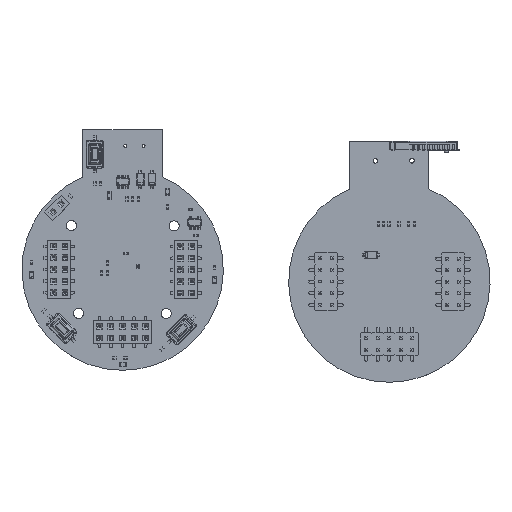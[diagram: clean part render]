
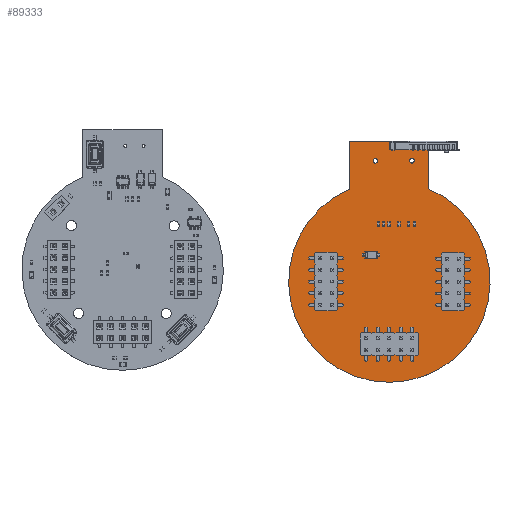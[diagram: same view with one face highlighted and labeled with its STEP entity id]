
A CAD part, top view. The second image highlights one B-rep face of the part: STEP entity #89333.
In plain terms, the highlighted planar face has unit normal (0, 0, 1).
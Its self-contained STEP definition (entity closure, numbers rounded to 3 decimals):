
#89197 = VERTEX_POINT('',#89198);
#89198 = CARTESIAN_POINT('',(238.34,-123.418,1.51));
#89204 = EDGE_CURVE('',#89197,#89205,#89207,.T.);
#89205 = VERTEX_POINT('',#89206);
#89206 = CARTESIAN_POINT('',(221.01,-123.439,1.51));
#89207 = CIRCLE('',#89208,22.007);
#89208 = AXIS2_PLACEMENT_3D('',#89209,#89210,#89211);
#89209 = CARTESIAN_POINT('',(229.7,-143.658,1.51));
#89210 = DIRECTION('',(0.,0.,-1.));
#89211 = DIRECTION('',(0.393,0.92,0.));
#89239 = VERTEX_POINT('',#89240);
#89240 = CARTESIAN_POINT('',(238.34,-113.09,1.51));
#89246 = EDGE_CURVE('',#89239,#89197,#89247,.T.);
#89247 = LINE('',#89248,#89249);
#89248 = CARTESIAN_POINT('',(238.34,-113.09,1.51));
#89249 = VECTOR('',#89250,1.);
#89250 = DIRECTION('',(0.,-1.,0.));
#89268 = EDGE_CURVE('',#89205,#89269,#89271,.T.);
#89269 = VERTEX_POINT('',#89270);
#89270 = CARTESIAN_POINT('',(221.01,-113.09,1.51));
#89271 = LINE('',#89272,#89273);
#89272 = CARTESIAN_POINT('',(221.01,-123.439,1.51));
#89273 = VECTOR('',#89274,1.);
#89274 = DIRECTION('',(0.,1.,0.));
#89333 = ADVANCED_FACE('',(#89334,#89345,#89356),#89367,.T.);
#89334 = FACE_BOUND('',#89335,.T.);
#89335 = EDGE_LOOP('',(#89336,#89337,#89338,#89344));
#89336 = ORIENTED_EDGE('',*,*,#89204,.F.);
#89337 = ORIENTED_EDGE('',*,*,#89246,.F.);
#89338 = ORIENTED_EDGE('',*,*,#89339,.F.);
#89339 = EDGE_CURVE('',#89269,#89239,#89340,.T.);
#89340 = LINE('',#89341,#89342);
#89341 = CARTESIAN_POINT('',(221.01,-113.09,1.51));
#89342 = VECTOR('',#89343,1.);
#89343 = DIRECTION('',(1.,0.,0.));
#89344 = ORIENTED_EDGE('',*,*,#89268,.F.);
#89345 = FACE_BOUND('',#89346,.T.);
#89346 = EDGE_LOOP('',(#89347));
#89347 = ORIENTED_EDGE('',*,*,#89348,.T.);
#89348 = EDGE_CURVE('',#89349,#89349,#89351,.T.);
#89349 = VERTEX_POINT('',#89350);
#89350 = CARTESIAN_POINT('',(226.631,-117.756,1.51));
#89351 = CIRCLE('',#89352,0.5);
#89352 = AXIS2_PLACEMENT_3D('',#89353,#89354,#89355);
#89353 = CARTESIAN_POINT('',(226.631,-117.256,1.51));
#89354 = DIRECTION('',(-0.,0.,-1.));
#89355 = DIRECTION('',(-0.,-1.,0.));
#89356 = FACE_BOUND('',#89357,.T.);
#89357 = EDGE_LOOP('',(#89358));
#89358 = ORIENTED_EDGE('',*,*,#89359,.T.);
#89359 = EDGE_CURVE('',#89360,#89360,#89362,.T.);
#89360 = VERTEX_POINT('',#89361);
#89361 = CARTESIAN_POINT('',(234.631,-117.756,1.51));
#89362 = CIRCLE('',#89363,0.5);
#89363 = AXIS2_PLACEMENT_3D('',#89364,#89365,#89366);
#89364 = CARTESIAN_POINT('',(234.631,-117.256,1.51));
#89365 = DIRECTION('',(-0.,0.,-1.));
#89366 = DIRECTION('',(-0.,-1.,0.));
#89367 = PLANE('',#89368);
#89368 = AXIS2_PLACEMENT_3D('',#89369,#89370,#89371);
#89369 = CARTESIAN_POINT('',(0.,0.,1.51));
#89370 = DIRECTION('',(0.,0.,1.));
#89371 = DIRECTION('',(1.,0.,-0.));
